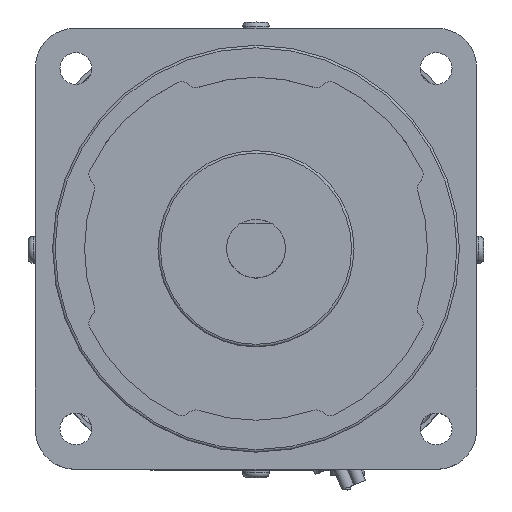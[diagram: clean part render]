
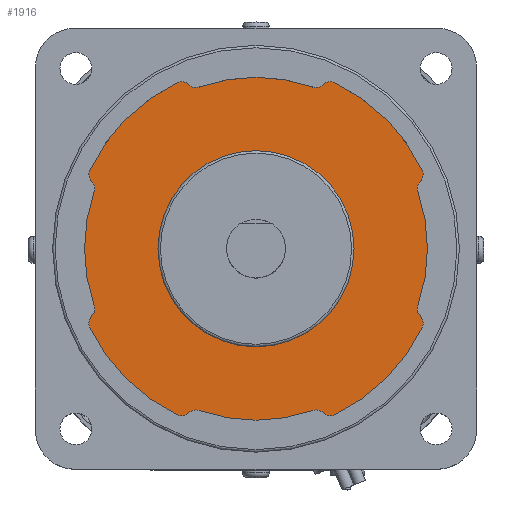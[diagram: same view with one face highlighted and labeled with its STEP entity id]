
A CAD part, top view. The second image highlights one B-rep face of the part: STEP entity #1916.
In plain terms, the highlighted planar face has unit normal (0, 0, 1).
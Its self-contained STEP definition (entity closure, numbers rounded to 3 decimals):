
#1675=CARTESIAN_POINT('',(20.0,0.,171.0));
#1676=VERTEX_POINT('',#1675);
#1677=CARTESIAN_POINT('',(0.,0.,171.0));
#1678=DIRECTION('',(0.0,0.0,-1.0));
#1679=DIRECTION('',(-1.0,0.0,0.0));
#1680=AXIS2_PLACEMENT_3D('',#1677,#1678,#1679);
#1681=CIRCLE('',#1680,20.0);
#1682=EDGE_CURVE('',#1676,#1676,#1681,.T.);
#1690=CARTESIAN_POINT('',(0.,0.,171.0));
#1691=DIRECTION('',(0.0,0.0,1.0));
#1692=DIRECTION('',(1.0,0.0,0.0));
#1693=AXIS2_PLACEMENT_3D('',#1690,#1691,#1692);
#1694=PLANE('',#1693);
#1695=CARTESIAN_POINT('',(-16.006,-33.913,171.0));
#1696=VERTEX_POINT('',#1695);
#1697=CARTESIAN_POINT('',(-13.722,-33.501,171.0));
#1698=VERTEX_POINT('',#1697);
#1699=CARTESIAN_POINT('',(-15.152,-32.104,171.0));
#1700=DIRECTION('',(0.0,0.0,1.0));
#1701=DIRECTION('',(0.427,0.904,0.0));
#1702=AXIS2_PLACEMENT_3D('',#1699,#1700,#1701);
#1703=CIRCLE('',#1702,2.);
#1704=EDGE_CURVE('',#1696,#1698,#1703,.T.);
#1705=ORIENTED_EDGE('',*,*,#1704,.T.);
#1706=CARTESIAN_POINT('',(-11.626,-33.013,171.0));
#1707=VERTEX_POINT('',#1706);
#1708=CARTESIAN_POINT('',(-12.291,-34.899,171.0));
#1709=DIRECTION('',(0.0,0.0,-1.0));
#1710=DIRECTION('',(-0.408,0.913,0.0));
#1711=AXIS2_PLACEMENT_3D('',#1708,#1709,#1710);
#1712=CIRCLE('',#1711,2.0);
#1713=EDGE_CURVE('',#1707,#1698,#1712,.F.);
#1714=ORIENTED_EDGE('',*,*,#1713,.F.);
#1715=CARTESIAN_POINT('',(11.626,-33.013,171.0));
#1716=VERTEX_POINT('',#1715);
#1717=CARTESIAN_POINT('',(0.,0.,171.));
#1718=DIRECTION('',(0.,0.,1.0));
#1719=DIRECTION('',(-0.383,-0.924,0.));
#1720=AXIS2_PLACEMENT_3D('',#1717,#1718,#1719);
#1721=CIRCLE('',#1720,35.0);
#1722=EDGE_CURVE('',#1707,#1716,#1721,.T.);
#1723=ORIENTED_EDGE('',*,*,#1722,.T.);
#1724=CARTESIAN_POINT('',(13.722,-33.501,171.0));
#1725=VERTEX_POINT('',#1724);
#1726=CARTESIAN_POINT('',(12.291,-34.899,171.0));
#1727=DIRECTION('',(0.0,0.0,-1.0));
#1728=DIRECTION('',(0.408,0.913,0.0));
#1729=AXIS2_PLACEMENT_3D('',#1726,#1727,#1728);
#1730=CIRCLE('',#1729,2.0);
#1731=EDGE_CURVE('',#1725,#1716,#1730,.F.);
#1732=ORIENTED_EDGE('',*,*,#1731,.F.);
#1733=CARTESIAN_POINT('',(16.006,-33.913,171.0));
#1734=VERTEX_POINT('',#1733);
#1735=CARTESIAN_POINT('',(15.152,-32.104,171.0));
#1736=DIRECTION('',(0.0,0.0,1.0));
#1737=DIRECTION('',(0.715,0.699,0.0));
#1738=AXIS2_PLACEMENT_3D('',#1735,#1736,#1737);
#1739=CIRCLE('',#1738,2.);
#1740=EDGE_CURVE('',#1725,#1734,#1739,.T.);
#1741=ORIENTED_EDGE('',*,*,#1740,.T.);
#1742=CARTESIAN_POINT('',(33.913,-16.006,171.0));
#1743=VERTEX_POINT('',#1742);
#1744=CARTESIAN_POINT('',(0.,0.,171.));
#1745=DIRECTION('',(0.,0.,1.0));
#1746=DIRECTION('',(0.383,-0.924,0.));
#1747=AXIS2_PLACEMENT_3D('',#1744,#1745,#1746);
#1748=CIRCLE('',#1747,37.5);
#1749=EDGE_CURVE('',#1734,#1743,#1748,.T.);
#1750=ORIENTED_EDGE('',*,*,#1749,.T.);
#1751=CARTESIAN_POINT('',(33.501,-13.722,171.0));
#1752=VERTEX_POINT('',#1751);
#1753=CARTESIAN_POINT('',(32.104,-15.152,171.0));
#1754=DIRECTION('',(0.0,0.0,1.0));
#1755=DIRECTION('',(-0.904,0.427,0.0));
#1756=AXIS2_PLACEMENT_3D('',#1753,#1754,#1755);
#1757=CIRCLE('',#1756,2.);
#1758=EDGE_CURVE('',#1743,#1752,#1757,.T.);
#1759=ORIENTED_EDGE('',*,*,#1758,.T.);
#1760=CARTESIAN_POINT('',(33.013,-11.626,171.0));
#1761=VERTEX_POINT('',#1760);
#1762=CARTESIAN_POINT('',(34.899,-12.291,171.0));
#1763=DIRECTION('',(0.0,0.0,-1.0));
#1764=DIRECTION('',(-0.913,-0.408,0.0));
#1765=AXIS2_PLACEMENT_3D('',#1762,#1763,#1764);
#1766=CIRCLE('',#1765,2.0);
#1767=EDGE_CURVE('',#1761,#1752,#1766,.F.);
#1768=ORIENTED_EDGE('',*,*,#1767,.F.);
#1769=CARTESIAN_POINT('',(33.013,11.626,171.0));
#1770=VERTEX_POINT('',#1769);
#1771=CARTESIAN_POINT('',(0.,0.,171.));
#1772=DIRECTION('',(0.,0.,1.0));
#1773=DIRECTION('',(0.924,-0.383,0.));
#1774=AXIS2_PLACEMENT_3D('',#1771,#1772,#1773);
#1775=CIRCLE('',#1774,35.);
#1776=EDGE_CURVE('',#1761,#1770,#1775,.T.);
#1777=ORIENTED_EDGE('',*,*,#1776,.T.);
#1778=CARTESIAN_POINT('',(33.501,13.722,171.0));
#1779=VERTEX_POINT('',#1778);
#1780=CARTESIAN_POINT('',(34.899,12.291,171.0));
#1781=DIRECTION('',(0.0,0.0,-1.0));
#1782=DIRECTION('',(-0.913,0.408,0.0));
#1783=AXIS2_PLACEMENT_3D('',#1780,#1781,#1782);
#1784=CIRCLE('',#1783,2.0);
#1785=EDGE_CURVE('',#1779,#1770,#1784,.F.);
#1786=ORIENTED_EDGE('',*,*,#1785,.F.);
#1787=CARTESIAN_POINT('',(33.913,16.006,171.0));
#1788=VERTEX_POINT('',#1787);
#1789=CARTESIAN_POINT('',(32.104,15.152,171.0));
#1790=DIRECTION('',(0.0,0.0,1.0));
#1791=DIRECTION('',(-0.699,0.715,0.0));
#1792=AXIS2_PLACEMENT_3D('',#1789,#1790,#1791);
#1793=CIRCLE('',#1792,2.);
#1794=EDGE_CURVE('',#1779,#1788,#1793,.T.);
#1795=ORIENTED_EDGE('',*,*,#1794,.T.);
#1796=CARTESIAN_POINT('',(16.006,33.913,171.0));
#1797=VERTEX_POINT('',#1796);
#1798=CARTESIAN_POINT('',(0.,0.,171.));
#1799=DIRECTION('',(0.,0.,1.0));
#1800=DIRECTION('',(0.924,0.383,0.));
#1801=AXIS2_PLACEMENT_3D('',#1798,#1799,#1800);
#1802=CIRCLE('',#1801,37.5);
#1803=EDGE_CURVE('',#1788,#1797,#1802,.T.);
#1804=ORIENTED_EDGE('',*,*,#1803,.T.);
#1805=CARTESIAN_POINT('',(13.722,33.501,171.0));
#1806=VERTEX_POINT('',#1805);
#1807=CARTESIAN_POINT('',(15.152,32.104,171.0));
#1808=DIRECTION('',(0.0,0.0,1.0));
#1809=DIRECTION('',(-0.427,-0.904,0.0));
#1810=AXIS2_PLACEMENT_3D('',#1807,#1808,#1809);
#1811=CIRCLE('',#1810,2.);
#1812=EDGE_CURVE('',#1797,#1806,#1811,.T.);
#1813=ORIENTED_EDGE('',*,*,#1812,.T.);
#1814=CARTESIAN_POINT('',(11.626,33.013,171.0));
#1815=VERTEX_POINT('',#1814);
#1816=CARTESIAN_POINT('',(12.291,34.899,171.0));
#1817=DIRECTION('',(0.0,0.0,-1.0));
#1818=DIRECTION('',(0.408,-0.913,0.0));
#1819=AXIS2_PLACEMENT_3D('',#1816,#1817,#1818);
#1820=CIRCLE('',#1819,2.0);
#1821=EDGE_CURVE('',#1815,#1806,#1820,.F.);
#1822=ORIENTED_EDGE('',*,*,#1821,.F.);
#1823=CARTESIAN_POINT('',(-11.626,33.013,171.0));
#1824=VERTEX_POINT('',#1823);
#1825=CARTESIAN_POINT('',(0.,0.,171.));
#1826=DIRECTION('',(0.,0.,1.0));
#1827=DIRECTION('',(0.383,0.924,0.));
#1828=AXIS2_PLACEMENT_3D('',#1825,#1826,#1827);
#1829=CIRCLE('',#1828,35.0);
#1830=EDGE_CURVE('',#1815,#1824,#1829,.T.);
#1831=ORIENTED_EDGE('',*,*,#1830,.T.);
#1832=CARTESIAN_POINT('',(-13.722,33.501,171.0));
#1833=VERTEX_POINT('',#1832);
#1834=CARTESIAN_POINT('',(-12.291,34.899,171.0));
#1835=DIRECTION('',(0.0,0.0,-1.0));
#1836=DIRECTION('',(-0.408,-0.913,0.0));
#1837=AXIS2_PLACEMENT_3D('',#1834,#1835,#1836);
#1838=CIRCLE('',#1837,2.0);
#1839=EDGE_CURVE('',#1833,#1824,#1838,.F.);
#1840=ORIENTED_EDGE('',*,*,#1839,.F.);
#1841=CARTESIAN_POINT('',(-16.006,33.913,171.0));
#1842=VERTEX_POINT('',#1841);
#1843=CARTESIAN_POINT('',(-15.152,32.104,171.0));
#1844=DIRECTION('',(0.0,0.0,1.0));
#1845=DIRECTION('',(-0.715,-0.699,0.0));
#1846=AXIS2_PLACEMENT_3D('',#1843,#1844,#1845);
#1847=CIRCLE('',#1846,2.);
#1848=EDGE_CURVE('',#1833,#1842,#1847,.T.);
#1849=ORIENTED_EDGE('',*,*,#1848,.T.);
#1850=CARTESIAN_POINT('',(-33.913,16.006,171.0));
#1851=VERTEX_POINT('',#1850);
#1852=CARTESIAN_POINT('',(0.,0.,171.));
#1853=DIRECTION('',(0.,0.,1.0));
#1854=DIRECTION('',(-0.383,0.924,0.));
#1855=AXIS2_PLACEMENT_3D('',#1852,#1853,#1854);
#1856=CIRCLE('',#1855,37.5);
#1857=EDGE_CURVE('',#1842,#1851,#1856,.T.);
#1858=ORIENTED_EDGE('',*,*,#1857,.T.);
#1859=CARTESIAN_POINT('',(-33.501,13.722,171.0));
#1860=VERTEX_POINT('',#1859);
#1861=CARTESIAN_POINT('',(-32.104,15.152,171.0));
#1862=DIRECTION('',(0.0,0.0,1.0));
#1863=DIRECTION('',(0.904,-0.427,0.0));
#1864=AXIS2_PLACEMENT_3D('',#1861,#1862,#1863);
#1865=CIRCLE('',#1864,2.);
#1866=EDGE_CURVE('',#1851,#1860,#1865,.T.);
#1867=ORIENTED_EDGE('',*,*,#1866,.T.);
#1868=CARTESIAN_POINT('',(-33.013,11.626,171.0));
#1869=VERTEX_POINT('',#1868);
#1870=CARTESIAN_POINT('',(-34.899,12.291,171.0));
#1871=DIRECTION('',(0.0,0.0,-1.0));
#1872=DIRECTION('',(0.913,0.408,0.0));
#1873=AXIS2_PLACEMENT_3D('',#1870,#1871,#1872);
#1874=CIRCLE('',#1873,2.0);
#1875=EDGE_CURVE('',#1869,#1860,#1874,.F.);
#1876=ORIENTED_EDGE('',*,*,#1875,.F.);
#1877=CARTESIAN_POINT('',(-33.013,-11.626,171.0));
#1878=VERTEX_POINT('',#1877);
#1879=CARTESIAN_POINT('',(0.,0.,171.));
#1880=DIRECTION('',(0.,0.,1.0));
#1881=DIRECTION('',(-0.924,0.383,0.));
#1882=AXIS2_PLACEMENT_3D('',#1879,#1880,#1881);
#1883=CIRCLE('',#1882,35.0);
#1884=EDGE_CURVE('',#1869,#1878,#1883,.T.);
#1885=ORIENTED_EDGE('',*,*,#1884,.T.);
#1886=CARTESIAN_POINT('',(-33.501,-13.722,171.0));
#1887=VERTEX_POINT('',#1886);
#1888=CARTESIAN_POINT('',(-34.899,-12.291,171.0));
#1889=DIRECTION('',(0.0,0.0,-1.0));
#1890=DIRECTION('',(0.913,-0.408,0.0));
#1891=AXIS2_PLACEMENT_3D('',#1888,#1889,#1890);
#1892=CIRCLE('',#1891,2.0);
#1893=EDGE_CURVE('',#1887,#1878,#1892,.F.);
#1894=ORIENTED_EDGE('',*,*,#1893,.F.);
#1895=CARTESIAN_POINT('',(-33.913,-16.006,171.0));
#1896=VERTEX_POINT('',#1895);
#1897=CARTESIAN_POINT('',(-32.104,-15.152,171.0));
#1898=DIRECTION('',(0.0,0.0,1.0));
#1899=DIRECTION('',(0.699,-0.715,0.0));
#1900=AXIS2_PLACEMENT_3D('',#1897,#1898,#1899);
#1901=CIRCLE('',#1900,2.);
#1902=EDGE_CURVE('',#1887,#1896,#1901,.T.);
#1903=ORIENTED_EDGE('',*,*,#1902,.T.);
#1904=CARTESIAN_POINT('',(0.,0.,171.));
#1905=DIRECTION('',(0.,0.,1.0));
#1906=DIRECTION('',(-0.924,-0.383,0.));
#1907=AXIS2_PLACEMENT_3D('',#1904,#1905,#1906);
#1908=CIRCLE('',#1907,37.5);
#1909=EDGE_CURVE('',#1896,#1696,#1908,.T.);
#1910=ORIENTED_EDGE('',*,*,#1909,.T.);
#1911=EDGE_LOOP('',(#1705,#1714,#1723,#1732,#1741,#1750,#1759,#1768,#1777,#1786,#1795,#1804,#1813,#1822,#1831,#1840,#1849,#1858,#1867,#1876,#1885,#1894,#1903,#1910));
#1912=FACE_OUTER_BOUND('',#1911,.T.);
#1913=ORIENTED_EDGE('',*,*,#1682,.T.);
#1914=EDGE_LOOP('',(#1913));
#1915=FACE_BOUND('',#1914,.T.);
#1916=ADVANCED_FACE('',(#1912,#1915),#1694,.T.);
